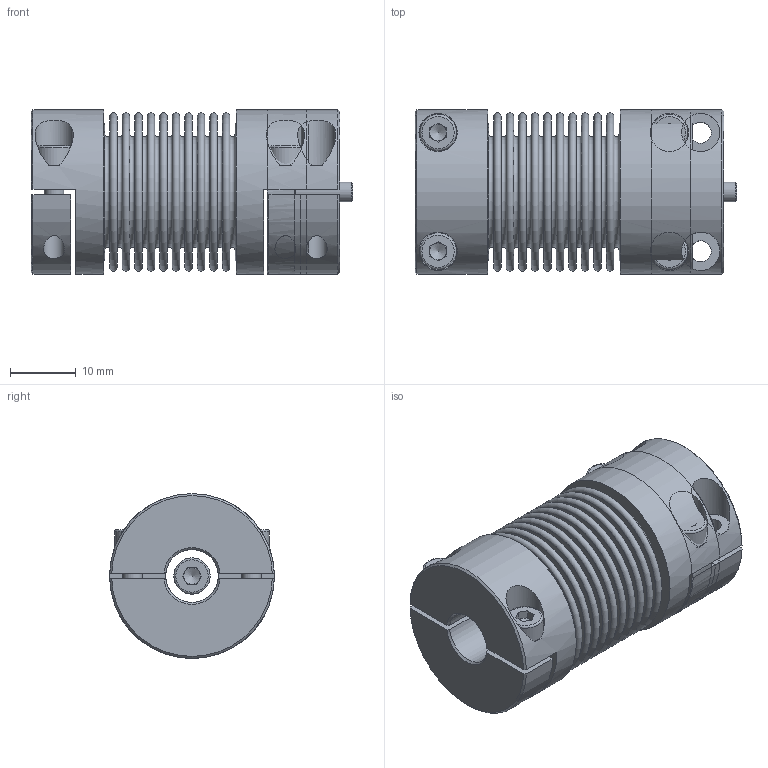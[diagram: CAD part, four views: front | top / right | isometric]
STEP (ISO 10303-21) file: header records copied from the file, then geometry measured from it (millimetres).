
FILE_DESCRIPTION( ( 'Unknown' ), '1' );
FILE_NAME( '//w2k11sbs/kbk/Konstruktion/KB2H/KB2H-20-42.stp', 'Unknown', ( 'Unknown' ), ( 'Unknown' ), 'XStep 1.0', 'Unknown', ' ' );
FILE_SCHEMA( ( 'automotive_design' ) );
Length unit declared in the file: millimetre
Products named in the file (5): Assem1; BL20_Standard_0; KNH-20; Socket Head Cap Screw_DIN_DIN 912 M3 x 10 --- 10N_2
Bounding box: 48.85 x 25 x 25 mm (x, y, z)
Volume: 14977.2 mm3; surface area: 34112.7 mm2
Topology: 13 solids, 13 shells, 372 faces, 701 edges, 451 vertices
Faces by surface type: plane 200, torus 102, cylinder 48, cone 22
Full cylindrical faces by diameter (mm): 3 x5, 3.2 x12, 5.5 x5, 8 x3, 21 x4, 21.3 x4, 25 x3
Entity records: 4232 total; most frequent: CARTESIAN_POINT 725, DIRECTION 608, ORIENTED_EDGE 370, AXIS2_PLACEMENT_3D 283, EDGE_LOOP 262, FACE_OUTER_BOUND 202, EDGE_CURVE 185, VERTEX_POINT 160
